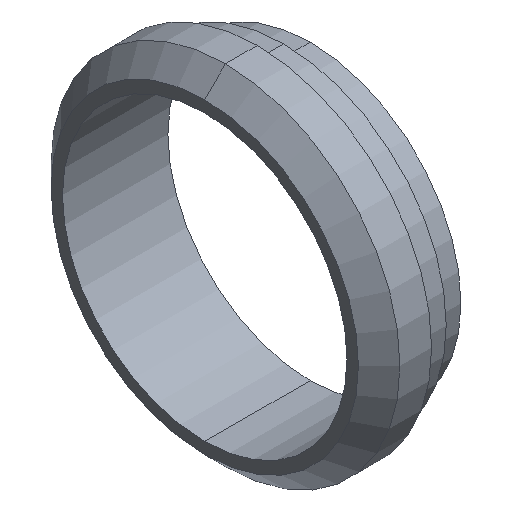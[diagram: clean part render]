
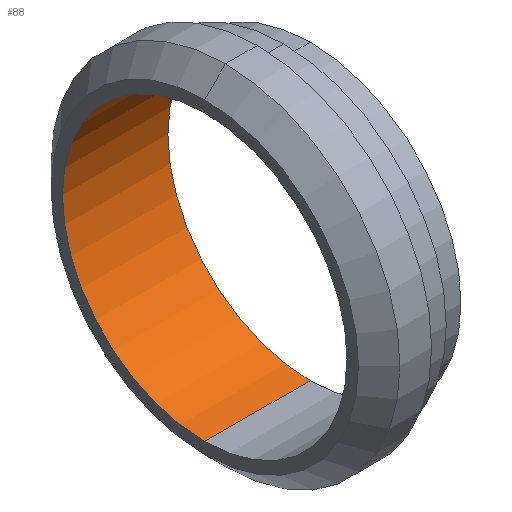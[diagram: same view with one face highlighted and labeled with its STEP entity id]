
A CAD part, isometric view. The second image highlights one B-rep face of the part: STEP entity #88.
In plain terms, the highlighted cylindrical face has radius 30.099 mm (diameter 60.198 mm), a partial arc.
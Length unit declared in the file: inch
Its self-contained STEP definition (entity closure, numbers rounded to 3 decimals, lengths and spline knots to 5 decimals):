
#3 = CARTESIAN_POINT ( 'NONE',  ( 0., 1.256, 0. ) ) ;
#14 = CIRCLE ( 'NONE', #364, 1.185 ) ;
#20 = VERTEX_POINT ( 'NONE', #107 ) ;
#21 = LINE ( 'NONE', #423, #246 ) ;
#28 = EDGE_CURVE ( 'NONE', #244, #379, #14, .T. ) ;
#34 = FACE_OUTER_BOUND ( 'NONE', #349, .T. ) ;
#54 = AXIS2_PLACEMENT_3D ( 'NONE', #335, #295, #82 ) ;
#61 = DIRECTION ( 'NONE',  ( -1., 0., 0. ) ) ;
#63 = LINE ( 'NONE', #258, #298 ) ;
#77 = ORIENTED_EDGE ( 'NONE', *, *, #296, .T. ) ;
#82 = DIRECTION ( 'NONE',  ( 0., 0., 1. ) ) ;
#88 = ADVANCED_FACE ( 'NONE', ( #34 ), #170, .F. ) ;
#107 = CARTESIAN_POINT ( 'NONE',  ( -0.878, 1.256, -1.185 ) ) ;
#111 = ORIENTED_EDGE ( 'NONE', *, *, #305, .F. ) ;
#118 = ORIENTED_EDGE ( 'NONE', *, *, #28, .F. ) ;
#135 = DIRECTION ( 'NONE',  ( -1., 0., 0. ) ) ;
#170 = CYLINDRICAL_SURFACE ( 'NONE', #54, 1.185 ) ;
#176 = DIRECTION ( 'NONE',  ( -1., 0., 0. ) ) ;
#181 = CARTESIAN_POINT ( 'NONE',  ( -0.878, 1.256, 0. ) ) ;
#183 = AXIS2_PLACEMENT_3D ( 'NONE', #181, #176, #300 ) ;
#195 = ORIENTED_EDGE ( 'NONE', *, *, #358, .T. ) ;
#209 = VERTEX_POINT ( 'NONE', #360 ) ;
#223 = DIRECTION ( 'NONE',  ( -1., 0., 0. ) ) ;
#244 = VERTEX_POINT ( 'NONE', #376 ) ;
#246 = VECTOR ( 'NONE', #135, 39.37008 ) ;
#258 = CARTESIAN_POINT ( 'NONE',  ( -0.878, 1.256, -1.185 ) ) ;
#295 = DIRECTION ( 'NONE',  ( -1., 0., 0. ) ) ;
#296 = EDGE_CURVE ( 'NONE', #244, #209, #21, .T. ) ;
#298 = VECTOR ( 'NONE', #223, 39.37008 ) ;
#300 = DIRECTION ( 'NONE',  ( 0., 0., 1. ) ) ;
#305 = EDGE_CURVE ( 'NONE', #379, #20, #63, .T. ) ;
#307 = CIRCLE ( 'NONE', #183, 1.185 ) ;
#335 = CARTESIAN_POINT ( 'NONE',  ( -0.878, 1.256, 0. ) ) ;
#349 = EDGE_LOOP ( 'NONE', ( #111, #118, #77, #195 ) ) ;
#358 = EDGE_CURVE ( 'NONE', #209, #20, #307, .T. ) ;
#360 = CARTESIAN_POINT ( 'NONE',  ( -0.878, 1.256, 1.185 ) ) ;
#364 = AXIS2_PLACEMENT_3D ( 'NONE', #3, #61, #394 ) ;
#376 = CARTESIAN_POINT ( 'NONE',  ( 0., 1.256, 1.185 ) ) ;
#379 = VERTEX_POINT ( 'NONE', #408 ) ;
#394 = DIRECTION ( 'NONE',  ( 0., 0., 1. ) ) ;
#408 = CARTESIAN_POINT ( 'NONE',  ( 0., 1.256, -1.185 ) ) ;
#423 = CARTESIAN_POINT ( 'NONE',  ( -0.878, 1.256, 1.185 ) ) ;
